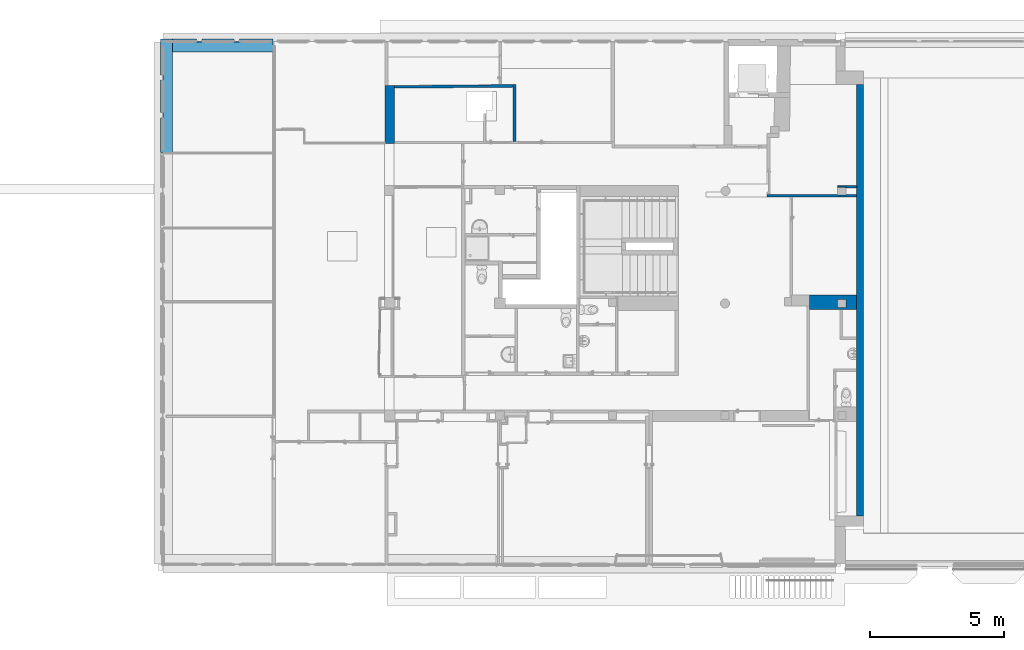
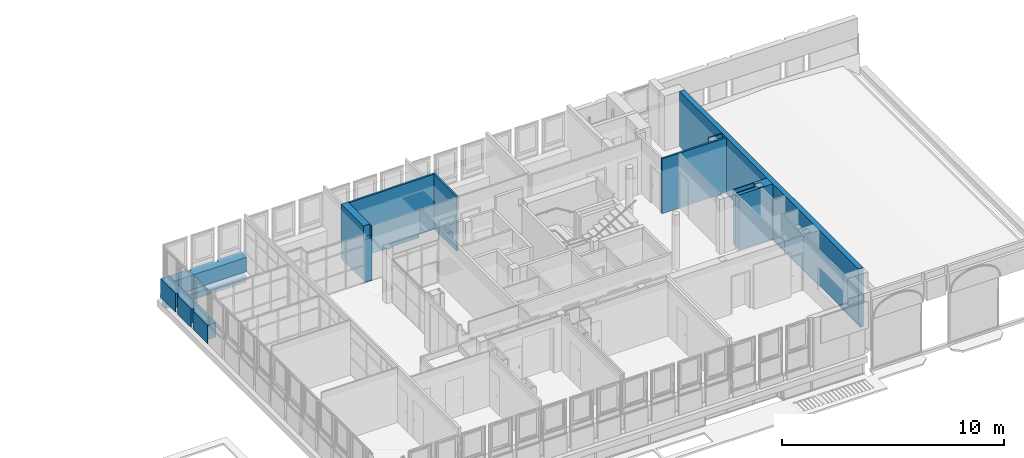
# One storey, part 79 of 97: 9 walls, 1 opening.
"""IFC4 building model written with IfcOpenShell, lengths in metres."""

from ifc_helpers import new_model, entity, si_unit, converted_unit, derived_unit, direction, frame, origin, place, context, subcontext, project, spatial, indexed_curve, outline, extrude, polygons, material, layer, layer_set, type_object, element, save


model = new_model("IFC4")

# Units and contexts
model_context = context("Model", 3, precision=1e-05, world=origin(), true_north=direction((6.12303176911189e-17, 1.0)))
body_context = subcontext(model_context, "Body", "Model", "MODEL_VIEW")
ifc_project = project(units=[si_unit("LENGTHUNIT", "METRE"), si_unit("AREAUNIT", "SQUARE_METRE"), si_unit("VOLUMEUNIT", "CUBIC_METRE"), converted_unit("PLANEANGLEUNIT", "DEGREE", entity("IfcRatioMeasure", 0.0174532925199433), si_unit("PLANEANGLEUNIT", "RADIAN"), dimensions=[0, 0, 0, 0, 0, 0, 0]), si_unit("MASSUNIT", "GRAM", prefix="KILO"), derived_unit("MASSDENSITYUNIT", [(si_unit("MASSUNIT", "GRAM", prefix="KILO"), 1), (si_unit("LENGTHUNIT", "METRE"), -3)]), derived_unit("MOMENTOFINERTIAUNIT", [(si_unit("LENGTHUNIT", "METRE"), 4)]), si_unit("TIMEUNIT", "SECOND"), si_unit("FREQUENCYUNIT", "HERTZ"), si_unit("THERMODYNAMICTEMPERATUREUNIT", "DEGREE_CELSIUS"), derived_unit("THERMALTRANSMITTANCEUNIT", [(si_unit("MASSUNIT", "GRAM", prefix="KILO"), 1), (si_unit("THERMODYNAMICTEMPERATUREUNIT", "KELVIN"), -1), (si_unit("TIMEUNIT", "SECOND"), -3)]), derived_unit("VOLUMETRICFLOWRATEUNIT", [(si_unit("LENGTHUNIT", "METRE"), 3), (si_unit("TIMEUNIT", "SECOND"), -1)]), si_unit("ELECTRICCURRENTUNIT", "AMPERE"), si_unit("ELECTRICVOLTAGEUNIT", "VOLT"), si_unit("POWERUNIT", "WATT"), si_unit("FORCEUNIT", "NEWTON", prefix="KILO"), si_unit("ILLUMINANCEUNIT", "LUX"), si_unit("LUMINOUSFLUXUNIT", "LUMEN"), si_unit("LUMINOUSINTENSITYUNIT", "CANDELA"), derived_unit("USERDEFINED", [(si_unit("MASSUNIT", "GRAM", prefix="KILO"), -1), (si_unit("LENGTHUNIT", "METRE"), -2), (si_unit("TIMEUNIT", "SECOND"), 3), (si_unit("LUMINOUSFLUXUNIT", "LUMEN"), 1)]), derived_unit("LINEARVELOCITYUNIT", [(si_unit("LENGTHUNIT", "METRE"), 1), (si_unit("TIMEUNIT", "SECOND"), -1)]), si_unit("PRESSUREUNIT", "PASCAL"), derived_unit("USERDEFINED", [(si_unit("LENGTHUNIT", "METRE"), -2), (si_unit("MASSUNIT", "GRAM", prefix="KILO"), 1), (si_unit("TIMEUNIT", "SECOND"), -2)]), derived_unit("LINEARFORCEUNIT", [(si_unit("MASSUNIT", "GRAM", prefix="KILO"), 1), (si_unit("LENGTHUNIT", "METRE"), 1), (si_unit("TIMEUNIT", "SECOND"), -2), (si_unit("LENGTHUNIT", "METRE"), -1)]), derived_unit("PLANARFORCEUNIT", [(si_unit("MASSUNIT", "GRAM", prefix="KILO"), 1), (si_unit("LENGTHUNIT", "METRE"), 1), (si_unit("TIMEUNIT", "SECOND"), -2), (si_unit("LENGTHUNIT", "METRE"), -2)])], contexts=[model_context])

# Site, building, storey
site_placement = place(None, origin())
site = spatial("IfcSite", under=ifc_project, at=site_placement, Name="Default", CompositionType="ELEMENT")
building_placement = place(site_placement, origin())
building = spatial("IfcBuilding", under=site, at=building_placement, Name="HOTEL CONSULAIRE BOULOGNE SUR MER", CompositionType="ELEMENT")
storey_placement = place(building_placement, frame((0.0, 0.0, 3.62152697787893)))
storey = spatial("IfcBuildingStorey", under=building, at=storey_placement, Name="Niveau 1", CompositionType="ELEMENT", Elevation=3.62152697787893)

# Walls
ifc_material = material(Name="Mur par défaut", Category="Divers")
ifc_layer_1 = layer(ifc_material, 0.35, Name="Mur par défaut", Category="Divers")
ifc_layer_set_1 = layer_set([ifc_layer_1], Name="Mur de base:Générique - Int.350")
wall_type_1 = type_object("IfcWallType", Name="Mur de base:Générique - Int.350", PredefinedType="NOTDEFINED", material=ifc_layer_set_1)
wall_1_placement = place(storey_placement, frame((-5.3347731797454, -13.8709141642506, 0.0), z_axis=(0.0, 0.0, 1.0), x_axis=(0.0, 1.0, 0.0)))
element("IfcWall", 1, at=wall_1_placement, inside=storey, type_object=wall_type_1, material=ifc_layer_set_1, Name="Mur de base:Générique - Int.350", ObjectType="Mur de base:Générique - Int.350", PredefinedType="NOTDEFINED", context=body_context, shape_type="Tessellation", body=[
    polygons([(0.0, -0.175, -5.41433564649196e-16), (0.0799999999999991, -0.175, -5.41433564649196e-16), (2.11139828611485, -0.175, -5.41433564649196e-16), (2.16140006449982, -0.175, -5.41433564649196e-16), (2.16140006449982, -0.175, 3.01021454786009), (2.06139650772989, -0.175, 3.01021454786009), (0.0799999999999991, -0.175, 3.01021454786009), (0.0, -0.175, 3.01021454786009), (2.15844807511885, 0.175, -5.41433564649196e-16), (2.16573425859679e-15, 0.175, -5.41433564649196e-16), (0.0, 0.175, 2.37021454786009), (0.160729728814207, 0.175, 2.37021454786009), (0.160729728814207, 0.175, 3.01021454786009), (2.15844807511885, 0.175, 3.01021454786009), (2.15929150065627, 0.075, -5.41433564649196e-16), (2.15929150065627, 0.075, 3.01021454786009), (0.160729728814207, -0.162244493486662, 3.01021454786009), (0.0, -0.162244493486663, 3.01021454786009), (0.0, -0.162244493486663, 2.37021454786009), (0.160729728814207, -0.162244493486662, 2.37021454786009)], [[[1, 2, 3, 4, 5, 6, 7, 8]], [[14, 9, 10, 11, 12, 13]], [[18, 17, 20, 19]], [[4, 3, 2, 1, 10, 9, 15]], [[6, 5, 16, 14, 13, 17, 18, 8, 7]], [[11, 19, 20, 12]], [[10, 1, 8, 18, 19, 11]], [[12, 20, 17, 13]], [[5, 4, 15, 9, 14, 16]]], closed=True),
])
ifc_layer_2 = layer(ifc_material, 0.1, Name="Mur par défaut", Category="Divers")
ifc_layer_set_2 = layer_set([ifc_layer_2], Name="Mur de base:Générique - Int. 100 mm")
wall_type_2 = type_object("IfcWallType", Name="Mur de base:Générique - Int. 100 mm", PredefinedType="NOTDEFINED", material=ifc_layer_set_2)
wall_2_placement = place(storey_placement, frame((-0.68279961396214, -13.7909141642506, 0.0), z_axis=(0.0, 0.0, 1.0), x_axis=(0.0, 1.0, 0.0)))
element("IfcWall", 2, at=wall_2_placement, inside=storey, type_object=wall_type_2, material=ifc_layer_set_2, Name="Mur de base:Générique - Int. 100 mm", ObjectType="Mur de base:Générique - Int. 100 mm", PredefinedType="NOTDEFINED", context=body_context, shape_type="Tessellation", body=[
    polygons([(2.11958171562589, -0.05, 3.01021454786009), (0.0, -0.05, 3.01021454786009), (0.0, -0.05, 5.41433564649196e-16), (2.11958171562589, -0.05, 5.41433564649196e-16), (-2.16573425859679e-15, 0.05, 3.01021454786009), (2.01873473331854, 0.05, 3.01021454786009), (2.11873829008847, 0.05, 3.01021454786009), (2.11873829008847, 0.05, 5.41433564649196e-16), (2.01873473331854, 0.05, 5.41433564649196e-16), (-2.16573425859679e-15, 0.05, 5.41433564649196e-16)], [[[2, 3, 4, 1]], [[6, 7, 8, 9, 10, 5]], [[2, 1, 7, 6, 5]], [[9, 8, 4, 3, 10]], [[1, 4, 8, 7]], [[10, 3, 2, 5]]], closed=True),
])
wall_3_placement = place(storey_placement, frame((-0.732377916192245, -11.7221740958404, -0.200000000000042), z_axis=(0.0, 0.0, 1.0), x_axis=(-0.999964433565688, -0.00843395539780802, 0.0)))
element("IfcWall", 3, at=wall_3_placement, inside=storey, type_object=wall_type_2, material=ifc_layer_set_2, Name="Mur de base:Générique - Int. 100 mm", ObjectType="Mur de base:Générique - Int. 100 mm", PredefinedType="NOTDEFINED", context=body_context, shape_type="Tessellation", body=[
    polygons([(4.42713102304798, -0.0500000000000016, 3.21021454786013), (0.534259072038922, -0.0500000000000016, 3.21021454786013), (0.43425551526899, -0.0500000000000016, 3.21021454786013), (9.13669140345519e-16, -0.0499999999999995, 3.21021454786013), (3.72235575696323e-16, -0.0499999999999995, 0.200000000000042), (0.434255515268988, -0.0500000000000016, 0.200000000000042), (0.534259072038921, -0.0500000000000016, 0.200000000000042), (4.42713102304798, -0.0500000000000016, 0.200000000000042), (0.000843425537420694, 0.0499999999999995, 3.21021454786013), (4.4279744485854, 0.0499999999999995, 3.21021454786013), (4.4279744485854, 0.0499999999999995, 0.0), (0.771911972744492, 0.0499999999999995, 0.0), (0.771911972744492, 0.0499999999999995, 0.189999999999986), (0.771911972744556, 0.0499999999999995, 0.200000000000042), (0.000843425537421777, 0.0499999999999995, 0.200000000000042), (4.42755273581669, 0.0, 0.0), (0.771490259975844, 0.0, 0.0), (0.771490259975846, 0.0, 0.200000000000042), (4.42755273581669, 0.0, 0.200000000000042)], [[[5, 6, 7, 8, 1, 2, 3, 4]], [[18, 17, 16, 19]], [[10, 11, 12, 13, 14, 15, 9]], [[16, 17, 12, 11]], [[7, 6, 5, 15, 14, 18, 19, 8]], [[4, 3, 2, 1, 10, 9]], [[9, 15, 5, 4]], [[13, 12, 17, 18, 14]], [[19, 16, 11, 10, 1, 8]]], closed=True),
])

# Wall, opening
wall_4_placement = place(storey_placement, frame((12.0764778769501, -15.820909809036, 0.0), z_axis=(0.0, 0.0, 1.0), x_axis=(-1.0, 0.0, 0.0)))
wall_4 = element("IfcWall", 4, at=wall_4_placement, inside=storey, type_object=wall_type_2, material=ifc_layer_set_2, Name="Mur de base:Générique - Int. 100 mm", ObjectType="Mur de base:Générique - Int. 100 mm", PredefinedType="NOTDEFINED", context=body_context, shape_type="Tessellation", body=[
    polygons([(3.34083957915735, -0.0499999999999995, 0.0), (3.34083957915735, -0.0499999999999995, 3.01021454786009), (3.34083957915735, -0.0499999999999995, 3.01321454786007), (0.709219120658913, -0.0499999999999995, 3.01321454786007), (0.709219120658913, -0.0499999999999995, 0.0), (3.24083957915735, -0.0499999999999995, 0.0), (-2.66619186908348e-17, -0.0499999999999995, 3.01321454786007), (-2.66619186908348e-17, -0.0499999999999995, 0.0), (0.409219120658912, -0.0499999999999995, 0.0), (0.409219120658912, -0.0499999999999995, 3.01321454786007), (-3.42677611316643e-16, 0.0499999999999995, 3.01321454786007), (2.39503095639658, 0.0499999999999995, 3.01321454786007), (2.48503095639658, 0.0499999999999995, 3.01321454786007), (3.34083957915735, 0.0499999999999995, 3.01321454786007), (3.34083957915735, 0.0499999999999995, 0.0), (2.48503095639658, 0.0499999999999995, 0.0), (2.48503095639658, 0.0499999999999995, 2.075), (2.39503095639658, 0.0499999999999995, 2.075), (2.39503095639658, 0.0499999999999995, 0.0), (-3.42677611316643e-16, 0.0499999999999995, 0.0), (0.409219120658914, -0.0250000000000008, 3.01321454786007), (0.709219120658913, -0.025000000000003, 3.01321454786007), (2.39503095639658, 0.0460000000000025, 2.075), (2.39503095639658, 0.0460000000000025, 0.0), (2.48503095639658, 0.0460000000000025, 0.0), (2.48503095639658, 0.0460000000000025, 2.075), (0.709219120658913, -0.0250000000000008, 0.0), (0.409219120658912, -0.0250000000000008, 0.0)], [[[4, 5, 6, 1, 2, 3]], [[7, 8, 9, 10]], [[28, 27, 22, 21]], [[15, 16, 17, 18, 19, 20, 11, 12, 13, 14]], [[25, 24, 23, 26]], [[7, 10, 21, 22, 4, 3, 14, 13, 12, 11]], [[2, 1, 15, 14, 3]], [[18, 23, 24, 19]], [[9, 28, 21, 10]], [[20, 8, 7, 11]], [[16, 25, 26, 17]], [[27, 5, 4, 22]], [[26, 23, 18, 17]], [[24, 25, 16, 15, 1, 6, 5, 27, 28, 9, 8, 20, 19]]], closed=True),
])
opening_placement = place(wall_4_placement, frame((2.48503095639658, 0.946000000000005, 0.0)))
element("IfcOpeningElement", 5, at=opening_placement, cuts=wall_4, Name="Mur de base:Générique - Int. 100 mm", ObjectType="Opening", PredefinedType="OPENING", context=body_context, shape_type="SweptSolid", body=[
    extrude(outline(indexed_curve([(-0.0449999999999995, -1.0375), (0.0450000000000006, -1.0375), (0.0450000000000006, 1.0375), (-0.0449999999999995, 1.0375), (-0.0449999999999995, -1.0375)], self_intersect=False)), frame((-0.0450000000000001, -0.900000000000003, 1.0375), z_axis=(0.0, 1.0, 0.0), x_axis=(1.0, 0.0, 0.0)), (0.0, 0.0, 1.0), 0.900000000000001),
])

# Walls
ifc_layer_3 = layer(ifc_material, 0.53, Name="Mur par défaut", Category="Divers")
ifc_layer_set_3 = layer_set([ifc_layer_3], Name="Mur de base:Générique - Int.530")
wall_type_3 = type_object("IfcWallType", Name="Mur de base:Générique - Int.530", PredefinedType="NOTDEFINED", material=ifc_layer_set_3)
wall_5_placement = place(storey_placement, frame((12.0764778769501, -19.7859366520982, 0.0), z_axis=(0.0, 0.0, 1.0), x_axis=(-1.0, 0.0, 0.0)))
element("IfcWall", 6, at=wall_5_placement, inside=storey, type_object=wall_type_3, material=ifc_layer_set_3, Name="Mur de base:Générique - Int.530", ObjectType="Mur de base:Générique - Int.530", PredefinedType="NOTDEFINED", context=body_context, shape_type="Tessellation", body=[
    polygons([(1.753, -0.265, 3.01321454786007), (0.0, -0.265, 3.01321454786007), (0.0, -0.265, 5.41433564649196e-16), (1.753, -0.265, 5.41433564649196e-16), (1.753, -0.265, 3.01021454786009), (0.0, 0.265, 5.41433564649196e-16), (0.0, 0.265, 3.01321454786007), (0.404534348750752, 0.265, 3.01321454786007), (0.404534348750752, 0.265, 3.01021454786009), (0.531575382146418, 0.265, 3.01021454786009), (0.631575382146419, 0.265, 3.01021454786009), (1.753, 0.265, 3.01021454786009), (1.753, 0.265, 5.41433564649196e-16), (0.631575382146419, 0.265, 5.41433564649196e-16), (0.531575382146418, 0.265, 5.41433564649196e-16), (1.753, -0.223026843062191, 3.01321454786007), (0.704534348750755, -0.223026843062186, 3.01321454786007), (0.704534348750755, -0.121022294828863, 3.01321454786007), (0.404534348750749, -0.121022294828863, 3.01321454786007), (1.753, 0.134999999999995, 5.41433564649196e-16), (1.753, 0.134999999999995, 3.01021454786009), (1.753, 0.0769731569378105, 3.01021454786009), (1.753, 0.0769731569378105, 2.79821454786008), (1.753, -0.223026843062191, 2.79821454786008), (0.409219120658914, 0.193263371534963, 5.41433564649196e-16), (0.409219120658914, -0.106736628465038, 5.41433564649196e-16), (0.709219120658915, -0.106736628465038, 5.41433564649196e-16), (0.709219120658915, 0.193263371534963, 5.41433564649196e-16), (0.409219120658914, 0.193263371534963, 3.01021454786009), (0.409219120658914, -0.106736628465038, 3.0102145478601), (0.709219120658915, 0.193263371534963, 3.01021454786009), (0.709219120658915, -0.106736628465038, 2.79821454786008), (0.709219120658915, 0.0769731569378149, 2.79821454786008), (0.709219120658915, 0.0769731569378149, 3.01021454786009), (0.704534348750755, -0.106736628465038, 3.0102145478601), (0.704534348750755, -0.106736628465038, 2.79821454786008), (0.704534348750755, -0.223026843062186, 2.79821454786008), (0.704534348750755, -0.121022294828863, 3.01021454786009), (0.404534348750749, -0.121022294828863, 3.01021454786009)], [[[2, 3, 4, 5, 1]], [[25, 28, 31, 29]], [[33, 23, 22, 34]], [[13, 14, 15, 6, 7, 8, 9, 10, 11, 12]], [[30, 35, 36, 32, 27, 26]], [[17, 16, 24, 37]], [[18, 38, 39, 19]], [[1, 16, 17, 18, 19, 8, 7, 2]], [[36, 37, 24, 23, 33, 32]], [[12, 11, 10, 9, 39, 38, 35, 30, 29, 31, 34, 22, 21]], [[6, 3, 2, 7]], [[34, 31, 28, 27, 32, 33]], [[13, 12, 21, 22, 23, 24, 16, 1, 5, 4, 20]], [[26, 25, 29, 30]], [[36, 35, 38, 18, 17, 37]], [[19, 39, 9, 8]], [[15, 14, 13, 20, 4, 3, 6], [25, 26, 27, 28]]], closed=True),
])
ifc_layer_4 = layer(ifc_material, 0.48, Name="Mur par défaut", Category="Divers")
ifc_layer_set_4 = layer_set([ifc_layer_4], Name="Mur de base:Générique - Ext.480 mm")
wall_type_4 = type_object("IfcWallType", Name="Mur de base:Générique - Ext.480 mm", PredefinedType="NOTDEFINED", material=ifc_layer_set_4)
wall_6_placement = place(storey_placement, frame((-13.8790998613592, -10.2153241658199, -0.570400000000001)))
element("IfcWall", 7, at=wall_6_placement, inside=storey, type_object=wall_type_4, material=ifc_layer_set_4, Name="Mur de base:Générique - Ext.480 mm", ObjectType="Mur de base:Générique - Ext.480 mm", PredefinedType="NOTDEFINED", context=body_context, shape_type="Tessellation", body=[
    polygons([(2.53626173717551e-16, -0.24, -5.41433564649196e-16), (4.17947521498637, -0.24, -5.41433564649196e-16), (4.17947521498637, -0.24, 0.335400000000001), (0.0139999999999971, -0.24, 0.335400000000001), (0.0139999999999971, -0.24, 0.339977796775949), (2.53626173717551e-16, -0.24, 0.339977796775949), (-9.54159047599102e-16, 0.0649999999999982, -5.41433564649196e-16), (-1.25389497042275e-15, 0.140691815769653, -5.41433564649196e-16), (0.0851191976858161, 0.140691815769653, -5.41433564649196e-16), (4.17947521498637, 0.140691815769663, -5.41433564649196e-16), (4.17947521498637, 0.140691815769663, 0.335400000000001), (-1.25389497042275e-15, 0.140691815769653, 0.339977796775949), (0.0139999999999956, 0.140691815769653, 0.339977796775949), (0.0139999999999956, 0.140691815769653, 0.335400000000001), (0.0851191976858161, 0.140691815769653, 0.335400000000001)], [[[5, 6, 1, 2, 3, 4]], [[9, 10, 2, 1, 7, 8]], [[3, 2, 10, 11]], [[13, 5, 4, 14]], [[12, 6, 5, 13]], [[4, 3, 11, 15, 14]], [[12, 8, 7, 1, 6]], [[12, 13, 14, 15, 11, 10, 9, 8]]], closed=True),
    polygons([(4.17947521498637, -0.24, 1.36201253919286), (0.436000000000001, -0.240000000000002, 1.36201253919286), (0.436000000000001, -0.240000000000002, 0.570400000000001), (4.17947521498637, -0.24, 0.570400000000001), (0.435999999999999, 0.239999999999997, 0.339977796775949), (0.435999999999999, 0.239999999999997, 1.36201253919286), (1.34208154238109, 0.24, 1.36201253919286), (1.34208154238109, 0.24, 0.34), (1.53327823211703, 0.239999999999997, 0.34), (1.53327823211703, 0.239999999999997, 1.36201253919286), (2.7420815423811, 0.24, 1.36201253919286), (2.7420815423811, 0.24, 0.34), (4.17947521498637, 0.24, 1.36201253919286), (4.17947521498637, 0.213691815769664, 0.570400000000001), (4.17947521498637, 0.213691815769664, 0.34), (4.17947521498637, 0.24, 0.34), (1.33813531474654, 0.213691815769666, 0.34), (0.435999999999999, 0.213691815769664, 0.34), (2.73813531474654, 0.213691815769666, 0.34), (1.53722445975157, 0.213691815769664, 0.34), (2.93722445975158, 0.213691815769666, 0.570400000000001), (2.93722445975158, 0.213691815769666, 0.34), (2.73813531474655, 0.213691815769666, 0.570400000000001), (1.53722445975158, 0.213691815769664, 0.570400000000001), (2.93327823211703, 0.24, 0.34), (2.93327823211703, 0.24, 1.36201253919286), (2.93767988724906, 0.210655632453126, 1.36201253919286), (2.93767988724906, 0.12965563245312, 1.36201253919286), (2.73767988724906, 0.129655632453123, 1.36201253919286), (2.73767988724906, 0.210655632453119, 1.36201253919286), (1.53767988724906, 0.210655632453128, 1.36201253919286), (1.53767988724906, 0.129655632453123, 1.36201253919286), (1.33767988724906, 0.129655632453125, 1.36201253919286), (1.33767988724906, 0.210655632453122, 1.36201253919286), (0.435999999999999, 0.213691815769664, 0.570400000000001), (1.33767988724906, 0.210655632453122, 0.570400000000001), (1.33813531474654, 0.213691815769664, 0.570400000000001), (1.33767988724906, 0.129655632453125, 0.570400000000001), (1.53767988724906, 0.129655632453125, 0.570400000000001), (1.53767988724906, 0.210655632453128, 0.570400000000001), (2.73767988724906, 0.210655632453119, 0.570400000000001), (2.73767988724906, 0.129655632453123, 0.570400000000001), (2.93767988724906, 0.129655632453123, 0.570400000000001), (2.93767988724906, 0.210655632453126, 0.570400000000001)], [[[2, 3, 4, 1]], [[14, 21, 22, 15]], [[24, 20, 19, 23]], [[37, 35, 18, 17]], [[7, 8, 5, 6]], [[11, 12, 9, 10]], [[13, 16, 25, 26]], [[38, 33, 32, 39]], [[42, 29, 28, 43]], [[1, 4, 14, 15, 16, 13]], [[36, 34, 33, 38]], [[41, 30, 29, 42]], [[5, 8, 17]], [[17, 18, 5]], [[9, 12, 19, 20]], [[25, 16, 15, 22]], [[42, 43, 44, 21, 14, 4, 3, 35, 37, 36, 38, 39, 40, 24, 23, 41]], [[1, 13, 26, 27, 28, 29, 30, 11, 10, 31, 32, 33, 34, 7, 6, 2]], [[35, 3, 2, 6, 5, 18]], [[39, 32, 31, 40]], [[43, 28, 27, 44]], [[37, 17, 8, 7, 34, 36]], [[23, 19, 12, 11, 30, 41]], [[24, 40, 31, 10, 9, 20]], [[21, 44, 27, 26, 25, 22]]], closed=True),
])
ifc_layer_5 = layer(ifc_material, 0.08, Name="Mur par défaut", Category="Divers")
ifc_layer_set_5 = layer_set([ifc_layer_5], Name="Mur de base:Générique - Int. 80")
wall_type_5 = type_object("IfcWallType", Name="Mur de base:Générique - Int. 80", PredefinedType="NOTDEFINED", material=ifc_layer_set_5)
wall_7_placement = place(storey_placement, frame((11.3672587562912, -15.4813927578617, 0.0)))
element("IfcWall", 8, at=wall_7_placement, inside=storey, type_object=wall_type_5, material=ifc_layer_set_5, Name="Mur de base:Générique - Int. 80", ObjectType="Mur de base:Générique - Int. 80", PredefinedType="NOTDEFINED", context=body_context, shape_type="Tessellation", body=[
    polygons([(0.709219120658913, -0.0399999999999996, 0.0), (0.709219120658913, -0.0399999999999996, 3.01321454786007), (0.300000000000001, -0.0399999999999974, 3.01321454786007), (0.300000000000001, -0.0399999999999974, 0.0), (-6.29378680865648e-16, 0.0399999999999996, 3.01321454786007), (0.709219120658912, 0.0399999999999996, 3.01321454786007), (0.709219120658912, 0.0399999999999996, 0.0), (-6.29378680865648e-16, 0.0399999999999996, 0.0), (-4.71028555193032e-16, -0.0145170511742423, 3.01321454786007), (0.300000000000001, -0.0145170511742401, 3.01321454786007), (-4.71028555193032e-16, -0.0145170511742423, 0.0), (0.300000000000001, -0.0145170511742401, 0.0)], [[[3, 4, 1, 2]], [[11, 12, 10, 9]], [[6, 7, 8, 5]], [[10, 3, 2, 6, 5, 9]], [[11, 9, 5, 8]], [[12, 4, 3, 10]], [[2, 1, 7, 6]], [[1, 4, 12, 11, 8, 7]]], closed=True),
])
ifc_layer_6 = layer(ifc_material, 0.25, Name="Mur par défaut", Category="Divers")
ifc_layer_set_6 = layer_set([ifc_layer_6], Name="Mur de base:Générique - Int. 250 mm")
wall_type_6 = type_object("IfcWallType", Name="Mur de base:Générique - Int. 250 mm", PredefinedType="NOTDEFINED", material=ifc_layer_set_6)
wall_8_placement = place(storey_placement, frame((12.2014778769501, -27.7610483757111, -0.235), z_axis=(0.0, 0.0, 1.0), x_axis=(0.0, 1.0, 0.0)))
element("IfcWall", 9, at=wall_8_placement, inside=storey, type_object=wall_type_6, material=ifc_layer_set_6, Name="Mur de base:Générique - Int. 250 mm", ObjectType="Mur de base:Générique - Int. 250 mm", PredefinedType="NOTDEFINED", context=body_context, shape_type="Tessellation", body=[
    polygons([(0.0, -0.124999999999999, -5.41433564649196e-16), (16.0875472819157, -0.125, -5.41433564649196e-16), (16.0875472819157, -0.125, 3.24521454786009), (16.0875472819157, -0.125, 3.24821454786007), (3.93394761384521, -0.124999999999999, 3.24821454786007), (3.93394761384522, -0.124999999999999, 3.24521454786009), (0.0, -0.124999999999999, 3.24521454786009), (16.0875472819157, 0.124999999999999, 0.235), (12.3196556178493, 0.124999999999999, 0.235), (12.2396556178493, 0.124999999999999, 0.235), (11.9901385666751, 0.124999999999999, 0.235), (11.8901385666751, 0.124999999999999, 0.235), (8.24011172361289, 0.124999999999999, 0.235), (7.71011172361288, 0.124999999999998, 0.235), (6.68311172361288, 0.124999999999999, 0.235), (6.58311172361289, 0.124999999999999, 0.235), (5.47828723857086, 0.125, 0.235), (5.39828723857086, 0.125, 0.235), (4.06828723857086, 0.124999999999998, 0.235), (3.51828723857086, 0.125, 0.235), (0.0, 0.125, 0.235), (0.0, 0.125, 3.24521454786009), (3.51828723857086, 0.125, 3.24521454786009), (3.93394761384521, 0.125, 3.24521454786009), (3.93394761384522, 0.125, 3.24821454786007), (5.39828723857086, 0.125, 3.24821454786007), (5.47828723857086, 0.125, 3.24821454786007), (6.58311172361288, 0.124999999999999, 3.24821454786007), (6.68311172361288, 0.124999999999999, 3.24821454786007), (7.71011172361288, 0.124999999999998, 3.24821454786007), (8.24011172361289, 0.124999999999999, 3.24821454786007), (11.8901385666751, 0.124999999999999, 3.24821454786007), (11.9901385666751, 0.124999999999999, 3.24821454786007), (12.2396556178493, 0.124999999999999, 3.24821454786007), (12.3196556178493, 0.124999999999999, 3.24821454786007), (16.0875472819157, 0.124999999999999, 3.24821454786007), (0.0, 0.0250000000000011, -5.41433564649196e-16), (16.0875472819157, 0.0250000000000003, -5.41433564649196e-16), (16.0875472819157, 0.0250000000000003, 0.235), (0.0, 0.0250000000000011, 0.235)], [[[6, 7, 1, 2, 3, 4, 5]], [[9, 10, 11, 12, 13, 14, 15, 16, 17, 18, 19, 20, 21, 22, 23, 24, 25, 26, 27, 28, 29, 30, 31, 32, 33, 34, 35, 36, 8]], [[39, 38, 37, 40]], [[2, 1, 37, 38]], [[18, 17, 16, 15, 14, 13, 12, 11, 10, 9, 8, 39, 40, 21, 20, 19]], [[4, 36, 35, 34, 33, 32, 31, 30, 29, 28, 27, 26, 25, 5]], [[23, 22, 7, 6, 24]], [[40, 37, 1, 7, 22, 21]], [[24, 6, 5, 25]], [[8, 36, 4, 3, 2, 38, 39]]], closed=True),
])
ifc_layer_7 = layer(ifc_material, 0.44, Name="Mur par défaut", Category="Divers")
ifc_layer_set_7 = layer_set([ifc_layer_7], Name="Mur de base:Générique - Ext.440")
wall_type_7 = type_object("IfcWallType", Name="Mur de base:Générique - Ext.440", PredefinedType="NOTDEFINED", material=ifc_layer_set_7)
wall_9_placement = place(storey_placement, frame((-13.6630998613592, -14.1974499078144, -0.230422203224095), z_axis=(0.0, 0.0, 1.0), x_axis=(0.0, 1.0, 0.0)))
element("IfcWall", 10, at=wall_9_placement, inside=storey, type_object=wall_type_7, material=ifc_layer_set_7, Name="Mur de base:Générique - Ext.440", ObjectType="Mur de base:Générique - Ext.440", PredefinedType="NOTDEFINED", context=body_context, shape_type="Tessellation", body=[
    polygons([(0.0, 0.219999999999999, 1.08286712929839e-15), (0.0, 0.219999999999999, 1.02203474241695), (1.28809959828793, 0.219999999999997, 1.02203474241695), (1.28809959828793, 0.219999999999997, 1.08286712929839e-15), (2.68809959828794, 0.219999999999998, 1.02203474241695), (2.68809959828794, 0.219999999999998, 1.08286712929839e-15), (1.48390040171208, 0.219999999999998, 1.08286712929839e-15), (1.48390040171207, 0.219999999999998, 1.02203474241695), (4.22212574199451, 0.219999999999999, 1.08286712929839e-15), (4.22212574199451, -0.220000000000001, 1.08286712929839e-15), (4.19581755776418, -0.220000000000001, 1.08286712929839e-15), (4.19581755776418, 0.202000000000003, 1.08286712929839e-15), (2.886, 0.202000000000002, 1.08286712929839e-15), (2.886, 0.206002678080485, 1.08286712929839e-15), (2.88390040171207, 0.219999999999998, 1.08286712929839e-15), (2.68600000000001, 0.206002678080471, 1.08286712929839e-15), (2.68600000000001, 0.202000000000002, 1.08286712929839e-15), (1.486, 0.202000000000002, 1.08286712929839e-15), (1.486, 0.206002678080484, 1.08286712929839e-15), (4.19581755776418, 0.202000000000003, 0.230422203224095), (2.886, 0.202000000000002, 0.230422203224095), (2.68600000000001, 0.202000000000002, 0.230422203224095), (1.486, 0.202000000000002, 0.230422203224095), (4.22212574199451, -0.220000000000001, 1.02203474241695), (3.74212574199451, -0.220000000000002, 1.02203474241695), (0.0, -0.22, 1.02203474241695), (0.0, -0.22, 0.230422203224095), (3.74212574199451, -0.220000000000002, 0.230422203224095), (4.19581755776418, -0.220000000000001, 0.230422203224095), (4.22212574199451, 0.219999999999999, 1.02203474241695), (2.88390040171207, 0.219999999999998, 1.02203474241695), (0.0, 0.202000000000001, 1.08286712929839e-15), (1.286, 0.206002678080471, 1.08286712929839e-15), (1.286, 0.202000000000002, 1.08286712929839e-15), (2.886, 0.20600267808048, 1.02203474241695), (2.88600000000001, 0.125002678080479, 1.02203474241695), (2.68600000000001, 0.125002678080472, 1.02203474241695), (2.68600000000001, 0.206002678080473, 1.02203474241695), (1.486, 0.206002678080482, 1.02203474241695), (1.486, 0.125002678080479, 1.02203474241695), (1.28600000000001, 0.125002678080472, 1.02203474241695), (1.286, 0.206002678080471, 1.02203474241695), (0.0, 0.202000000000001, 0.230422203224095), (1.286, 0.202000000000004, 0.230422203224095), (1.286, 0.125002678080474, 0.230422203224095), (1.486, 0.125002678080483, 0.230422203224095), (2.68600000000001, 0.125002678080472, 0.230422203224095), (2.88600000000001, 0.125002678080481, 0.230422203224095)], [[[3, 4, 1, 2]], [[5, 6, 7, 8]], [[30, 9, 15, 31]], [[46, 45, 41, 40]], [[48, 47, 37, 36]], [[10, 11, 12, 13, 14, 15, 9]], [[16, 17, 18, 19, 7, 6]], [[34, 32, 1, 4, 33]], [[45, 46, 23, 22, 47, 48, 21, 20, 29, 28, 27, 43, 44]], [[21, 13, 12, 20]], [[22, 23, 18, 17]], [[27, 28, 29, 11, 10, 24, 25, 26]], [[43, 32, 34, 44]], [[36, 37, 38, 5, 8, 39, 40, 41, 42, 3, 2, 26, 25, 24, 30, 31, 35]], [[26, 2, 1, 32, 43, 27]], [[20, 12, 11, 29]], [[23, 46, 40, 39, 19, 18]], [[21, 48, 36, 35, 14, 13]], [[24, 10, 9, 30]], [[44, 34, 33, 42, 41, 45]], [[22, 17, 16, 38, 37, 47]], [[33, 4, 3, 42]], [[16, 6, 5, 38]], [[19, 39, 8, 7]], [[14, 35, 31, 15]]], closed=True),
])

save(model, "model.ifc")
